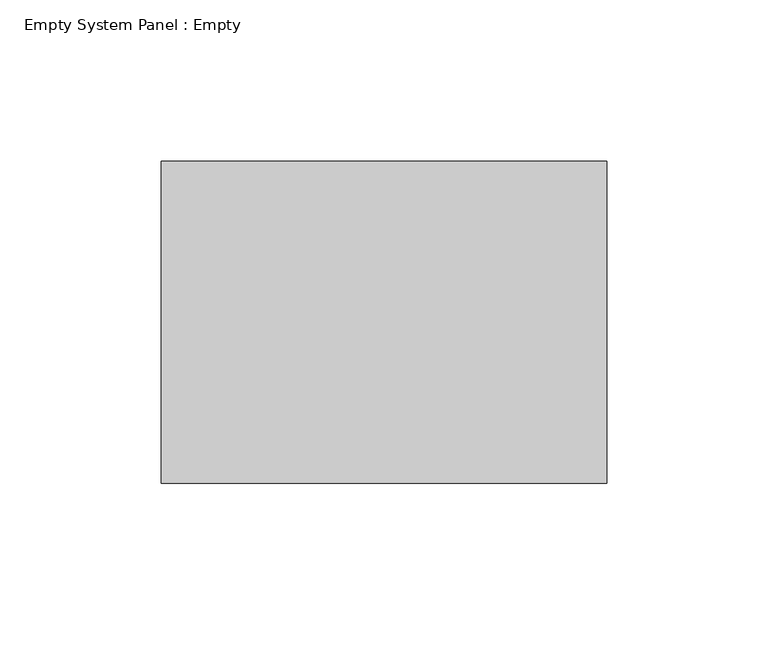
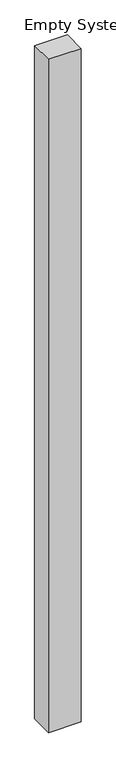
"""IFC4 building model written with IfcOpenShell, lengths in millimetres: plate geometry, Empty System Panel : Empty."""

from ifc_helpers import new_model, si_unit, origin, origin_with_axes, place, context, project, spatial, polyline, outline, extrude, source, transform, mapped, element, save


def empty_system_panel_empty_5da2f048(model_context):
    return source(origin(), model_context, "Body", "SweptSolid", [
        extrude(outline(polyline([(69.2499998, 50.0), (-69.2499998, 50.0), (-69.2499998, 150.0), (69.2499998, 150.0), (69.2499998, 50.0)])), origin_with_axes(), (0.0, 0.0, 1.0), 3000.0),
    ])


if __name__ == "__main__":
    model = new_model("IFC4")
    model_context = context("Model", 3, world=origin())
    ifc_project = project(units=[si_unit("LENGTHUNIT", "METRE", prefix="MILLI")], contexts=[model_context])
    site = spatial("IfcSite", under=ifc_project)
    building = spatial("IfcBuilding", under=site)
    placement = place(None, origin())
    empty_system_panel_empty_shape = empty_system_panel_empty_5da2f048(model_context)
    element("IfcPlate", 1, ObjectType="Empty System Panel : Empty", at=placement, inside=building, context=model_context, shape_type="MappedRepresentation", body=[
        mapped(empty_system_panel_empty_shape, transform((0.0, 0.0, 0.0), x_axis=(1.0, 0.0, 0.0), y_axis=(0.0, 1.0, 0.0), z_axis=(0.0, 0.0, 1.0))),
    ])
    save(model, "model.ifc")
